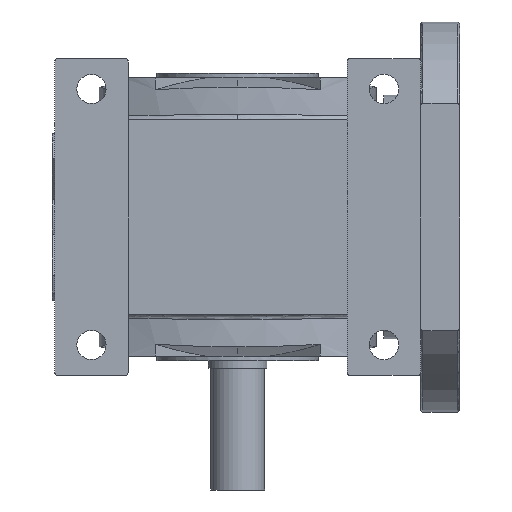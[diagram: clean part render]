
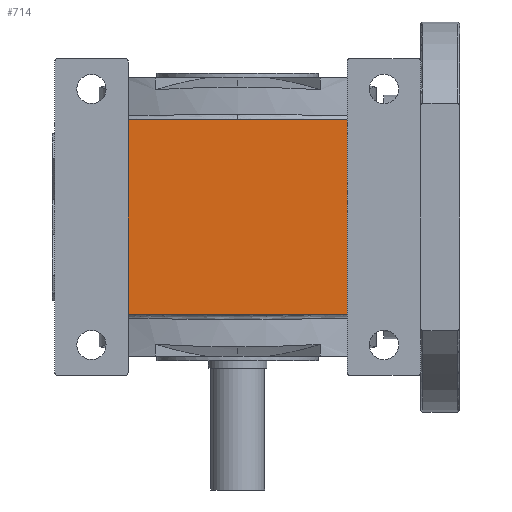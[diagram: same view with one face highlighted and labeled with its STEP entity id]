
A CAD part, front view. The second image highlights one B-rep face of the part: STEP entity #714.
In plain terms, the highlighted planar face has unit normal (0, -1, 0).
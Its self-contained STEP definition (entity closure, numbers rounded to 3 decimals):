
#42 = DIRECTION ( 'NONE',  ( 0., 0., 1. ) ) ;
#714 = ADVANCED_FACE ( 'NONE', ( #6541 ), #20262, .T. ) ;
#1249 = VECTOR ( 'NONE', #9046, 1000. ) ;
#1555 = CARTESIAN_POINT ( 'NONE',  ( -45., -110., 40. ) ) ;
#2723 = VERTEX_POINT ( 'NONE', #36643 ) ;
#4793 = VERTEX_POINT ( 'NONE', #30279 ) ;
#6541 = FACE_OUTER_BOUND ( 'NONE', #21246, .T. ) ;
#7735 = EDGE_CURVE ( 'NONE', #4793, #34604, #31703, .T. ) ;
#8778 = VERTEX_POINT ( 'NONE', #1555 ) ;
#9046 = DIRECTION ( 'NONE',  ( 0., 0., -1. ) ) ;
#10139 = LINE ( 'NONE', #28866, #1249 ) ;
#10409 = CARTESIAN_POINT ( 'NONE',  ( -60., -110., 40. ) ) ;
#10699 = DIRECTION ( 'NONE',  ( 1., 0., 0. ) ) ;
#11349 = VECTOR ( 'NONE', #36406, 1000. ) ;
#16432 = CARTESIAN_POINT ( 'NONE',  ( -60., -110., -40. ) ) ;
#20066 = LINE ( 'NONE', #10409, #39338 ) ;
#20262 = PLANE ( 'NONE',  #25767 ) ;
#20420 = DIRECTION ( 'NONE',  ( 0., 0., -1. ) ) ;
#21246 = EDGE_LOOP ( 'NONE', ( #25091, #27739, #24399, #37077 ) ) ;
#23452 = CARTESIAN_POINT ( 'NONE',  ( -60., -110., -40. ) ) ;
#24399 = ORIENTED_EDGE ( 'NONE', *, *, #31028, .F. ) ;
#25091 = ORIENTED_EDGE ( 'NONE', *, *, #7735, .T. ) ;
#25767 = AXIS2_PLACEMENT_3D ( 'NONE', #23452, #40372, #20420 ) ;
#26937 = LINE ( 'NONE', #30375, #37382 ) ;
#27739 = ORIENTED_EDGE ( 'NONE', *, *, #37045, .T. ) ;
#28866 = CARTESIAN_POINT ( 'NONE',  ( -45., -110., -40. ) ) ;
#30279 = CARTESIAN_POINT ( 'NONE',  ( -45., -110., -40. ) ) ;
#30375 = CARTESIAN_POINT ( 'NONE',  ( 45., -110., -40. ) ) ;
#31028 = EDGE_CURVE ( 'NONE', #8778, #2723, #20066, .T. ) ;
#31703 = LINE ( 'NONE', #16432, #11349 ) ;
#34604 = VERTEX_POINT ( 'NONE', #41072 ) ;
#36406 = DIRECTION ( 'NONE',  ( 1., 0., 0. ) ) ;
#36643 = CARTESIAN_POINT ( 'NONE',  ( 45., -110., 40. ) ) ;
#37045 = EDGE_CURVE ( 'NONE', #34604, #2723, #26937, .T. ) ;
#37077 = ORIENTED_EDGE ( 'NONE', *, *, #38968, .T. ) ;
#37382 = VECTOR ( 'NONE', #42, 1000. ) ;
#38968 = EDGE_CURVE ( 'NONE', #8778, #4793, #10139, .T. ) ;
#39338 = VECTOR ( 'NONE', #10699, 1000. ) ;
#40372 = DIRECTION ( 'NONE',  ( 0., -1., 0. ) ) ;
#41072 = CARTESIAN_POINT ( 'NONE',  ( 45., -110., -40. ) ) ;
